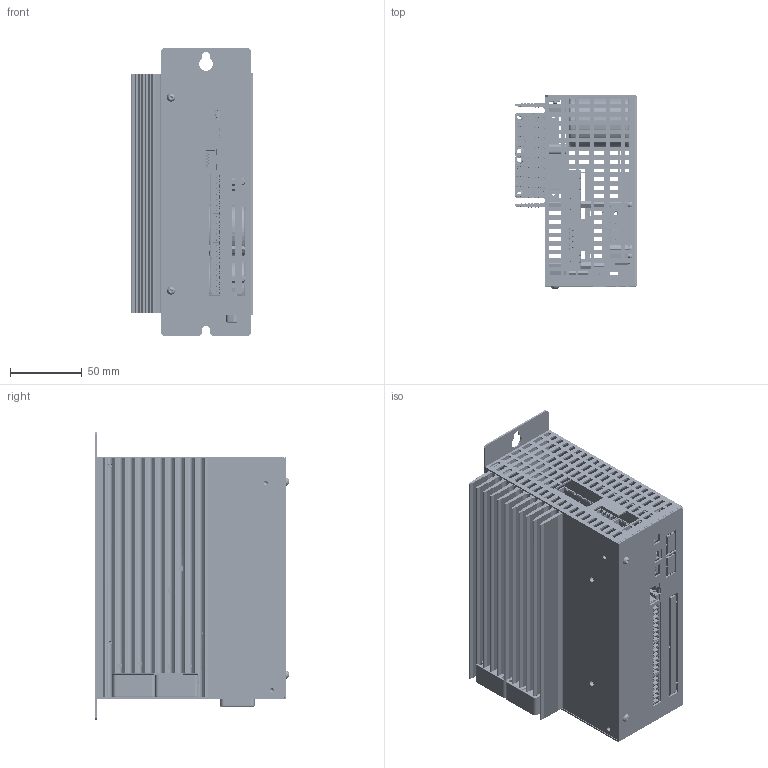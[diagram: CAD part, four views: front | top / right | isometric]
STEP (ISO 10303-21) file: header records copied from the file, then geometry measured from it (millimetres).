
FILE_DESCRIPTION(/* description */ (''),/* implementation_level */ '2;1');
FILE_NAME(/* name */ 'C:\Users\Jean-Yves\Documents\Inventor\smd400-p4-plan-pour-client\smd400--p04.stp',/* time_stamp */ '2021-04-21T11:01:32+02:00',/* author */ ('Jean-Yves'),/* organization */ (''),/* preprocessor_version */ 'ST-DEVELOPER v18',/* originating_system */ 'Autodesk Inventor 2020',/* authorisation */ '');
FILE_SCHEMA (('CONFIG_CONTROL_DESIGN'));
Products named in the file (1): smd400-4_Shrinkwrap_1
Bounding box: 85.43 x 135.34 x 202.01 mm (x, y, z)
Volume: 408087 mm3; surface area: 389142.3 mm2
Topology: 52 solids, 52 shells, 9789 faces, 26651 edges, 17477 vertices
Faces by surface type: plane 7531, cylinder 1621, cone 226, bspline 199, torus 161, sphere 51
Full cylindrical faces by diameter (mm): 0.434 x4, 0.457 x14, 0.711 x27, 0.8 x5, 0.838 x34, 0.889 x34, 0.9 x2, 0.92 x26, 0.965 x20, 0.975 x1, 1 x26, 1.079 x14, 1.092 x48, 1.2 x53, 1.22 x90, 1.25 x25, 1.27 x16, 1.4 x20, 1.5 x8, 1.524 x6, 1.6 x22, 1.905 x10, 2.013 x3, 2.18 x2, 2.439 x4, 2.459 x18, 2.5 x15, 2.667 x1, 2.7 x4, 2.75 x5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
Entity records: 332415 total; most frequent: CARTESIAN_POINT 69379, ORIENTED_EDGE 53154, DIRECTION 50661, EDGE_CURVE 26577, LINE 20265, VECTOR 20265, VERTEX_POINT 17477, AXIS2_PLACEMENT_3D 15198
